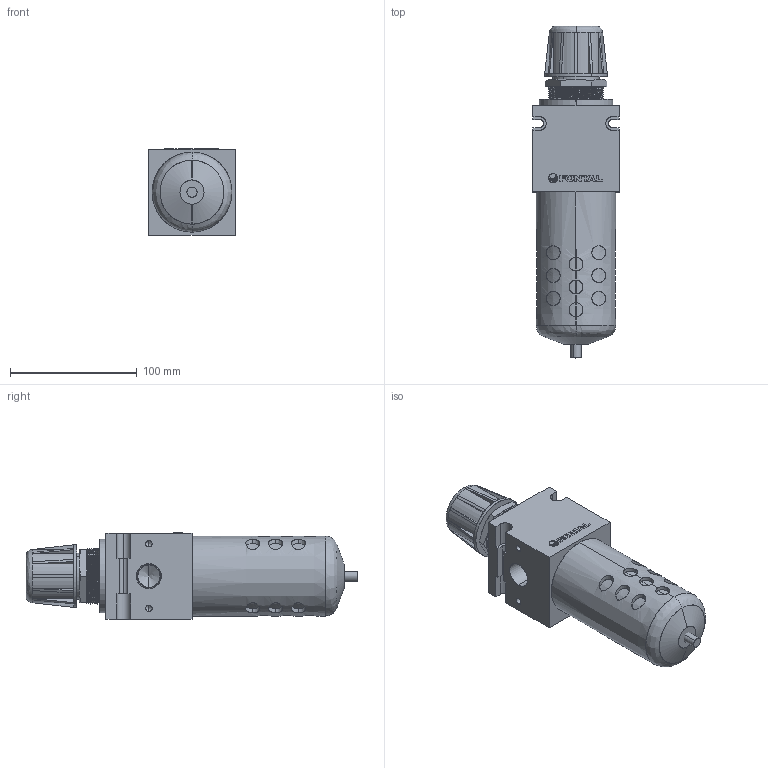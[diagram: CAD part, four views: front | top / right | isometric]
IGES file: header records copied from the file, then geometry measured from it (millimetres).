
Start section: SolidWorks IGES file using analytic representation for surfaces
Global section: file name: D:\Custom\3Dﾃｸｻs\ｽﾕｽ霎ｹ\ｽﾕﾀ｣ｹLﾂoｾｹ\B105#-04#Y##.IGS,1; native system: 5HSolidWorks 2014; preprocessor: SolidWorks 2014; author: Chieh_Lu; date: 160115.030239; units: millimetre
Bounding box: 68 x 262 x 68.2 mm (x, y, z)
Surface area: 90290.9 mm2 (no closed solid volume)
Topology: 0 solids, 0 shells, 365 faces, 5845 edges, 5833 vertices
Faces by surface type: bspline 199, revolution 166
